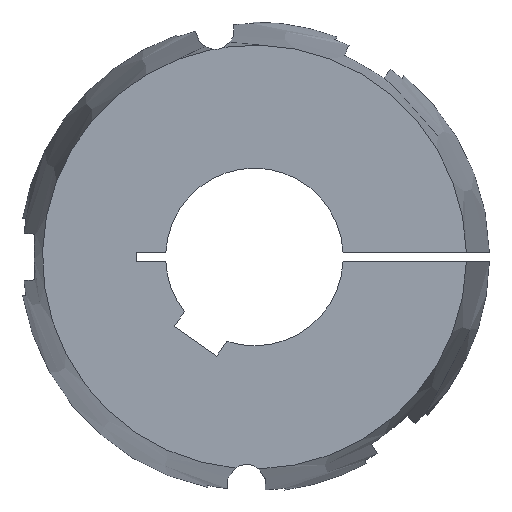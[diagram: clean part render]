
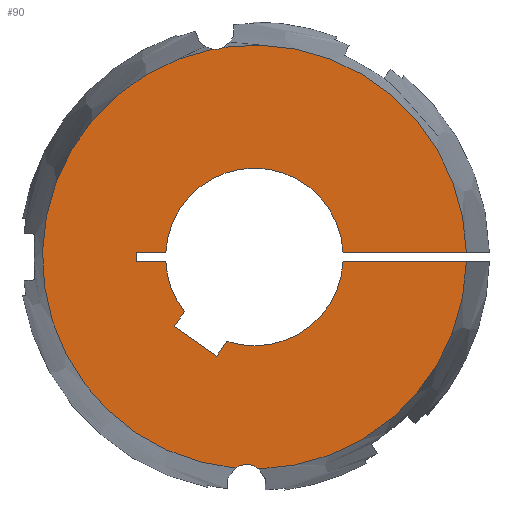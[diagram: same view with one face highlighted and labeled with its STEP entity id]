
A CAD part, left-side view. The second image highlights one B-rep face of the part: STEP entity #90.
In plain terms, the highlighted planar face has unit normal (-1, 0, 0).
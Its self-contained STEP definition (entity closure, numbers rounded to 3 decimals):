
#90 = ADVANCED_FACE( '', ( #140 ), #141, .F. );
#140 = FACE_OUTER_BOUND( '', #208, .T. );
#141 = PLANE( '', #209 );
#208 = EDGE_LOOP( '', ( #369, #370, #371, #372, #373, #374, #375, #376, #377, #378, #379, #380, #381, #382, #383, #384 ) );
#209 = AXIS2_PLACEMENT_3D( '', #385, #386, #387 );
#369 = ORIENTED_EDGE( '', *, *, #548, .F. );
#370 = ORIENTED_EDGE( '', *, *, #601, .F. );
#371 = ORIENTED_EDGE( '', *, *, #570, .T. );
#372 = ORIENTED_EDGE( '', *, *, #583, .T. );
#373 = ORIENTED_EDGE( '', *, *, #581, .T. );
#374 = ORIENTED_EDGE( '', *, *, #578, .T. );
#375 = ORIENTED_EDGE( '', *, *, #587, .T. );
#376 = ORIENTED_EDGE( '', *, *, #602, .T. );
#377 = ORIENTED_EDGE( '', *, *, #603, .T. );
#378 = ORIENTED_EDGE( '', *, *, #604, .T. );
#379 = ORIENTED_EDGE( '', *, *, #605, .T. );
#380 = ORIENTED_EDGE( '', *, *, #606, .T. );
#381 = ORIENTED_EDGE( '', *, *, #572, .T. );
#382 = ORIENTED_EDGE( '', *, *, #607, .F. );
#383 = ORIENTED_EDGE( '', *, *, #551, .F. );
#384 = ORIENTED_EDGE( '', *, *, #608, .F. );
#385 = CARTESIAN_POINT( '', ( -89., 0., 0. ) );
#386 = DIRECTION( '', ( 1., 0., 0. ) );
#387 = DIRECTION( '', ( 0., 1., 0. ) );
#548 = EDGE_CURVE( '', #649, #651, #652, .F. );
#551 = EDGE_CURVE( '', #655, #657, #658, .F. );
#570 = EDGE_CURVE( '', #693, #691, #694, .T. );
#572 = EDGE_CURVE( '', #696, #697, #698, .T. );
#578 = EDGE_CURVE( '', #709, #707, #710, .T. );
#581 = EDGE_CURVE( '', #714, #709, #715, .T. );
#583 = EDGE_CURVE( '', #691, #714, #717, .T. );
#587 = EDGE_CURVE( '', #707, #721, #723, .T. );
#601 = EDGE_CURVE( '', #693, #649, #745, .T. );
#602 = EDGE_CURVE( '', #721, #746, #747, .T. );
#603 = EDGE_CURVE( '', #746, #748, #749, .T. );
#604 = EDGE_CURVE( '', #748, #750, #751, .T. );
#605 = EDGE_CURVE( '', #750, #752, #753, .T. );
#606 = EDGE_CURVE( '', #752, #696, #754, .T. );
#607 = EDGE_CURVE( '', #657, #697, #755, .T. );
#608 = EDGE_CURVE( '', #651, #655, #756, .T. );
#649 = VERTEX_POINT( '', #815 );
#651 = VERTEX_POINT( '', #828 );
#652 = CIRCLE( '', #829, 5.25 );
#655 = VERTEX_POINT( '', #843 );
#657 = VERTEX_POINT( '', #861 );
#658 = CIRCLE( '', #862, 5.25 );
#691 = VERTEX_POINT( '', #935 );
#693 = VERTEX_POINT( '', #938 );
#694 = LINE( '', #939, #940 );
#696 = VERTEX_POINT( '', #948 );
#697 = VERTEX_POINT( '', #949 );
#698 = LINE( '', #950, #951 );
#707 = VERTEX_POINT( '', #969 );
#709 = VERTEX_POINT( '', #972 );
#710 = LINE( '', #973, #974 );
#714 = VERTEX_POINT( '', #980 );
#715 = LINE( '', #981, #982 );
#717 = CIRCLE( '', #985, 24. );
#721 = VERTEX_POINT( '', #990 );
#723 = LINE( '', #993, #994 );
#745 = CIRCLE( '', #1019, 57.277 );
#746 = VERTEX_POINT( '', #1020 );
#747 = CIRCLE( '', #1021, 24. );
#748 = VERTEX_POINT( '', #1022 );
#749 = LINE( '', #1023, #1024 );
#750 = VERTEX_POINT( '', #1025 );
#751 = LINE( '', #1026, #1027 );
#752 = VERTEX_POINT( '', #1028 );
#753 = LINE( '', #1029, #1030 );
#754 = CIRCLE( '', #1031, 24. );
#755 = CIRCLE( '', #1032, 57.277 );
#756 = CIRCLE( '', #1033, 57.277 );
#815 = CARTESIAN_POINT( '', ( -89., -1.169, -57.265 ) );
#828 = CARTESIAN_POINT( '', ( -89., 5.158, -57.044 ) );
#829 = AXIS2_PLACEMENT_3D( '', #1193, #1194, #1195 );
#843 = CARTESIAN_POINT( '', ( -89., 11.362, 56.138 ) );
#861 = CARTESIAN_POINT( '', ( -89., 8.229, 56.682 ) );
#862 = AXIS2_PLACEMENT_3D( '', #1196, #1197, #1198 );
#935 = CARTESIAN_POINT( '', ( -89., -23.967, -1.25 ) );
#938 = CARTESIAN_POINT( '', ( -89., -57.263, -1.25 ) );
#939 = CARTESIAN_POINT( '', ( -89., -63.5, -1.25 ) );
#940 = VECTOR( '', #1228, 1000. );
#948 = CARTESIAN_POINT( '', ( -89., -23.967, 1.25 ) );
#949 = CARTESIAN_POINT( '', ( -89., -57.263, 1.25 ) );
#950 = CARTESIAN_POINT( '', ( -89., 0., 1.25 ) );
#951 = VECTOR( '', #1229, 1000. );
#969 = CARTESIAN_POINT( '', ( -89., 21.679, -18.757 ) );
#972 = CARTESIAN_POINT( '', ( -89., 10.211, -26.787 ) );
#973 = CARTESIAN_POINT( '', ( -89., 10.211, -26.787 ) );
#974 = VECTOR( '', #1234, 1000. );
#980 = CARTESIAN_POINT( '', ( -89., 7.433, -22.82 ) );
#981 = CARTESIAN_POINT( '', ( -89., 7.433, -22.82 ) );
#982 = VECTOR( '', #1237, 1000. );
#985 = AXIS2_PLACEMENT_3D( '', #1239, #1240, #1241 );
#990 = CARTESIAN_POINT( '', ( -89., 18.901, -14.79 ) );
#993 = CARTESIAN_POINT( '', ( -89., 21.679, -18.757 ) );
#994 = VECTOR( '', #1247, 1000. );
#1019 = AXIS2_PLACEMENT_3D( '', #1281, #1282, #1283 );
#1020 = CARTESIAN_POINT( '', ( -89., 23.967, -1.25 ) );
#1021 = AXIS2_PLACEMENT_3D( '', #1284, #1285, #1286 );
#1022 = CARTESIAN_POINT( '', ( -89., 32., -1.25 ) );
#1023 = CARTESIAN_POINT( '', ( -89., 0., -1.25 ) );
#1024 = VECTOR( '', #1287, 1000. );
#1025 = CARTESIAN_POINT( '', ( -89., 32., 1.25 ) );
#1026 = CARTESIAN_POINT( '', ( -89., 32., -1.25 ) );
#1027 = VECTOR( '', #1288, 1000. );
#1028 = CARTESIAN_POINT( '', ( -89., 23.967, 1.25 ) );
#1029 = CARTESIAN_POINT( '', ( -89., 32., 1.25 ) );
#1030 = VECTOR( '', #1289, 1000. );
#1031 = AXIS2_PLACEMENT_3D( '', #1290, #1291, #1292 );
#1032 = AXIS2_PLACEMENT_3D( '', #1293, #1294, #1295 );
#1033 = AXIS2_PLACEMENT_3D( '', #1296, #1297, #1298 );
#1193 = CARTESIAN_POINT( '', ( -89., 2.141, -61.34 ) );
#1194 = DIRECTION( '', ( 1., 0., 0. ) );
#1195 = DIRECTION( '', ( 0., 1., 0. ) );
#1196 = CARTESIAN_POINT( '', ( -89., 10.652, 61.34 ) );
#1197 = DIRECTION( '', ( 1., 0., 0. ) );
#1198 = DIRECTION( '', ( 0., 1., 0. ) );
#1228 = DIRECTION( '', ( 0., 1., 0. ) );
#1229 = DIRECTION( '', ( 0., -1., 0. ) );
#1234 = DIRECTION( '', ( 0., 0.819, 0.574 ) );
#1237 = DIRECTION( '', ( 0., 0.574, -0.819 ) );
#1239 = CARTESIAN_POINT( '', ( -89., 0., 0. ) );
#1240 = DIRECTION( '', ( 1., 0., 0. ) );
#1241 = DIRECTION( '', ( 0., 0., -1. ) );
#1247 = DIRECTION( '', ( 0., -0.574, 0.819 ) );
#1281 = CARTESIAN_POINT( '', ( -89., 0., 0. ) );
#1282 = DIRECTION( '', ( 1., 0., 0. ) );
#1283 = DIRECTION( '', ( 0., 1., 0. ) );
#1284 = CARTESIAN_POINT( '', ( -89., 0., 0. ) );
#1285 = DIRECTION( '', ( 1., 0., 0. ) );
#1286 = DIRECTION( '', ( 0., 0., -1. ) );
#1287 = DIRECTION( '', ( 0., 1., 0. ) );
#1288 = DIRECTION( '', ( 0., 0., 1. ) );
#1289 = DIRECTION( '', ( 0., -1., 0. ) );
#1290 = CARTESIAN_POINT( '', ( -89., 0., 0. ) );
#1291 = DIRECTION( '', ( 1., 0., 0. ) );
#1292 = DIRECTION( '', ( 0., 0., -1. ) );
#1293 = CARTESIAN_POINT( '', ( -89., 0., 0. ) );
#1294 = DIRECTION( '', ( 1., 0., 0. ) );
#1295 = DIRECTION( '', ( 0., 1., 0. ) );
#1296 = CARTESIAN_POINT( '', ( -89., 0., 0. ) );
#1297 = DIRECTION( '', ( 1., 0., 0. ) );
#1298 = DIRECTION( '', ( 0., 1., 0. ) );
